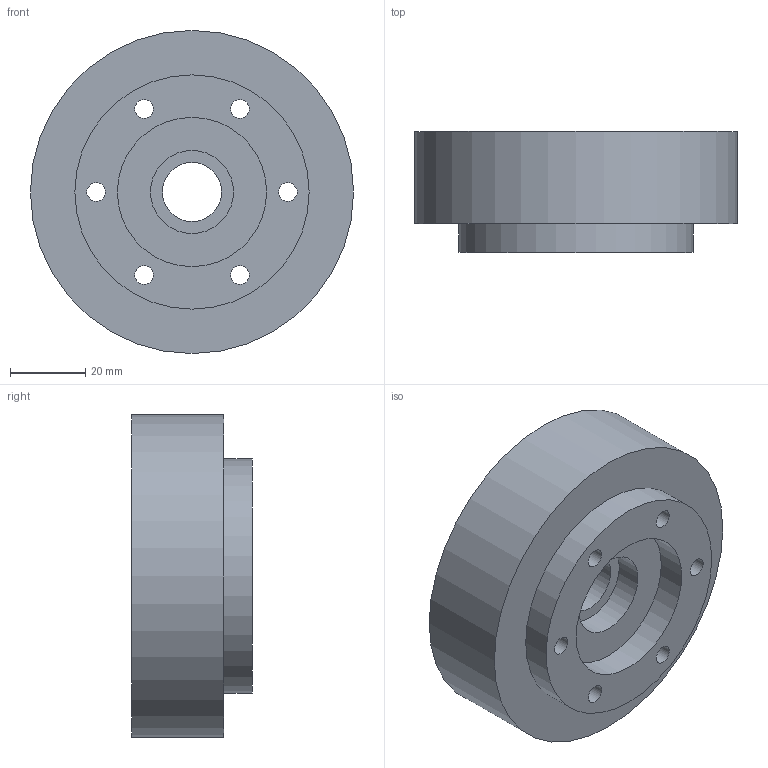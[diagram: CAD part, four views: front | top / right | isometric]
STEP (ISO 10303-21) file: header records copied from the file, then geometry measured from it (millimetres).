
FILE_DESCRIPTION(/* description */ ('STEP AP242 Edition 2','CAx-IF Rec.Pracs.---Representation and Presentation of Product Manufacturing Information (PMI)---4.0---2014-10-13','CAx-IF Rec.Pracs.---3D Tessellated Geometry---0.4---2014-09-14','2;1','CAx-IF Rec.Pracs.---User Defined Attributes---1.5---2016-08-15'),/* implementation_level */ '2;1');
FILE_NAME(/* name */ 'wheel - Powered Hub',/* time_stamp */ '2026-05-29T17:26:38Z',/* author */ (''),/* organization */ (''),/* preprocessor_version */ 'ST-DEVELOPER v20',/* originating_system */ 'ONSHAPE BY PTC INC, 1.215',/* authorisation */ ' ');
FILE_SCHEMA (('AP242_MANAGED_MODEL_BASED_3D_ENGINEERING_MIM_LF { 1 0 10303 442 3 1 4 }'));
Length unit declared in the file: metre
Products named in the file (1): Powered Hub
Bounding box: 85.6 x 32.02 x 85.6 mm (x, y, z)
Volume: 140874 mm3; surface area: 25004.3 mm2
Topology: 1 solids, 1 shells, 60 faces, 144 edges, 96 vertices
Faces by surface type: plane 48, cylinder 12
Full cylindrical faces by diameter (mm): 4.915 x6, 15.646 x1, 21.996 x2, 39.535 x1, 62.065 x1, 85.596 x1
Entity records: 1722 total; most frequent: CARTESIAN_POINT 289, DIRECTION 278, ORIENTED_EDGE 264, EDGE_CURVE 132, LINE 108, VECTOR 108, VERTEX_POINT 96, EDGE_LOOP 96
